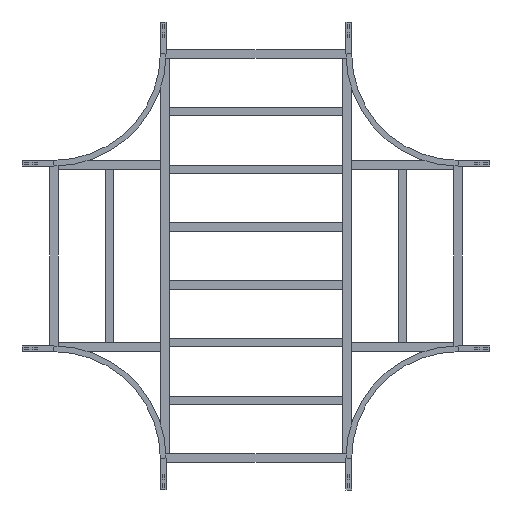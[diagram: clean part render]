
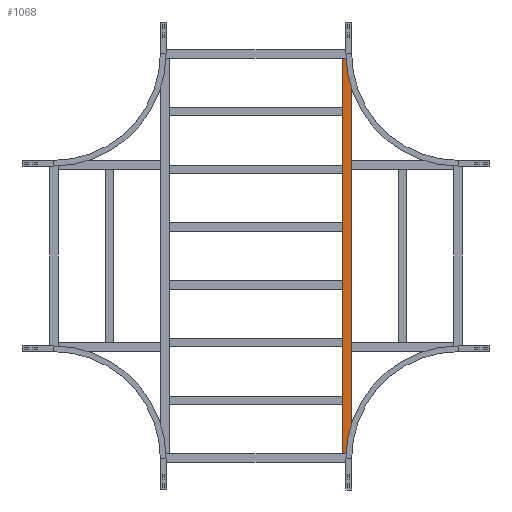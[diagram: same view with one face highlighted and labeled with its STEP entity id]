
A CAD part, front view. The second image highlights one B-rep face of the part: STEP entity #1068.
In plain terms, the highlighted planar face has unit normal (0, -1, 0).
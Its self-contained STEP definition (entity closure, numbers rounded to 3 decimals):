
#265 = ORIENTED_EDGE ( 'NONE', *, *, #969, .F. ) ;
#457 = CARTESIAN_POINT ( 'NONE',  ( 929.75, 0., 20.25 ) ) ;
#627 = DIRECTION ( 'NONE',  ( 0., 1., 0. ) ) ;
#662 = VECTOR ( 'NONE', #1944, 1000. ) ;
#676 = ORIENTED_EDGE ( 'NONE', *, *, #1510, .T. ) ;
#722 = DIRECTION ( 'NONE',  ( -1., 0., 0. ) ) ;
#750 = CARTESIAN_POINT ( 'NONE',  ( 929.75, 0., 20.25 ) ) ;
#969 = EDGE_CURVE ( 'NONE', #2736, #2100, #2346, .T. ) ;
#984 = CARTESIAN_POINT ( 'NONE',  ( -929.75, 0., 20.25 ) ) ;
#997 = LINE ( 'NONE', #984, #1141 ) ;
#1028 = DIRECTION ( 'NONE',  ( 0., 0., -1. ) ) ;
#1068 = ADVANCED_FACE ( 'NONE', ( #1977 ), #1075, .F. ) ;
#1075 = PLANE ( 'NONE',  #1231 ) ;
#1141 = VECTOR ( 'NONE', #1028, 1000. ) ;
#1231 = AXIS2_PLACEMENT_3D ( 'NONE', #2532, #627, #1297 ) ;
#1297 = DIRECTION ( 'NONE',  ( 0., 0., 1. ) ) ;
#1352 = VERTEX_POINT ( 'NONE', #750 ) ;
#1392 = DIRECTION ( 'NONE',  ( 0., 0., -1. ) ) ;
#1453 = CARTESIAN_POINT ( 'NONE',  ( -929.75, 0., -20.25 ) ) ;
#1458 = ORIENTED_EDGE ( 'NONE', *, *, #2884, .T. ) ;
#1510 = EDGE_CURVE ( 'NONE', #1352, #1800, #2506, .T. ) ;
#1516 = CARTESIAN_POINT ( 'NONE',  ( -929.75, 0., 20.25 ) ) ;
#1530 = VECTOR ( 'NONE', #722, 1000. ) ;
#1672 = CARTESIAN_POINT ( 'NONE',  ( 929.75, 0., -20.25 ) ) ;
#1800 = VERTEX_POINT ( 'NONE', #1516 ) ;
#1836 = CARTESIAN_POINT ( 'NONE',  ( 929.75, 0., 20.25 ) ) ;
#1867 = CARTESIAN_POINT ( 'NONE',  ( 929.75, 0., -20.25 ) ) ;
#1943 = EDGE_LOOP ( 'NONE', ( #1458, #265, #2550, #676 ) ) ;
#1944 = DIRECTION ( 'NONE',  ( -1., 0., 0. ) ) ;
#1977 = FACE_OUTER_BOUND ( 'NONE', #1943, .T. ) ;
#2100 = VERTEX_POINT ( 'NONE', #1453 ) ;
#2311 = EDGE_CURVE ( 'NONE', #1352, #2736, #2481, .T. ) ;
#2346 = LINE ( 'NONE', #1672, #662 ) ;
#2481 = LINE ( 'NONE', #457, #2504 ) ;
#2504 = VECTOR ( 'NONE', #1392, 1000. ) ;
#2506 = LINE ( 'NONE', #1836, #1530 ) ;
#2532 = CARTESIAN_POINT ( 'NONE',  ( 929.75, 0., 20.25 ) ) ;
#2550 = ORIENTED_EDGE ( 'NONE', *, *, #2311, .F. ) ;
#2736 = VERTEX_POINT ( 'NONE', #1867 ) ;
#2884 = EDGE_CURVE ( 'NONE', #1800, #2100, #997, .T. ) ;
